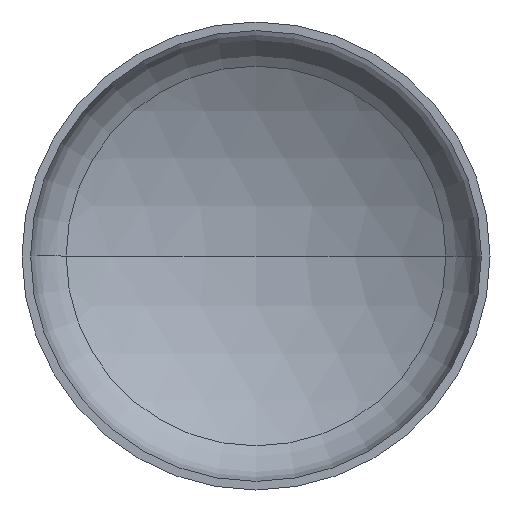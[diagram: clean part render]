
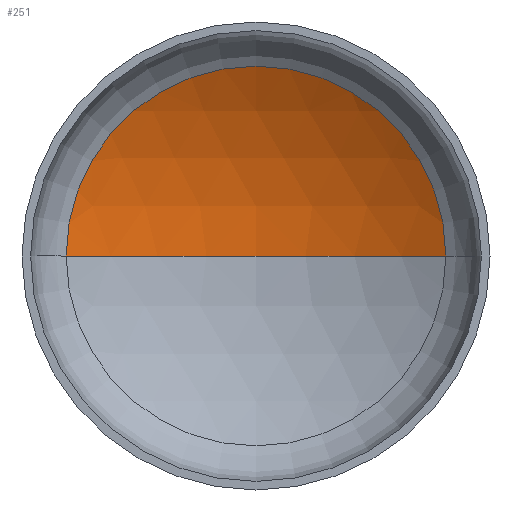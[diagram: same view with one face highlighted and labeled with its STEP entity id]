
A CAD part, front view. The second image highlights one B-rep face of the part: STEP entity #251.
In plain terms, the highlighted spherical face has radius 5200 mm.
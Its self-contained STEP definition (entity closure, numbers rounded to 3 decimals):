
#11 = ORIENTED_EDGE ( 'NONE', *, *, #183, .F. ) ;
#21 = CARTESIAN_POINT ( 'NONE',  ( 0., -3544.82, 0. ) ) ;
#27 = VERTEX_POINT ( 'NONE', #272 ) ;
#31 = DIRECTION ( 'NONE',  ( 0., 0., -1. ) ) ;
#41 = VERTEX_POINT ( 'NONE', #340 ) ;
#67 = VERTEX_POINT ( 'NONE', #262 ) ;
#81 = AXIS2_PLACEMENT_3D ( 'NONE', #21, #31, #385 ) ;
#88 = EDGE_LOOP ( 'NONE', ( #11, #98, #102 ) ) ;
#98 = ORIENTED_EDGE ( 'NONE', *, *, #180, .T. ) ;
#102 = ORIENTED_EDGE ( 'NONE', *, *, #179, .T. ) ;
#115 = FACE_OUTER_BOUND ( 'NONE', #88, .T. ) ;
#120 = CARTESIAN_POINT ( 'NONE',  ( 0., -3544.82, 0. ) ) ;
#130 = AXIS2_PLACEMENT_3D ( 'NONE', #120, #226, #247 ) ;
#134 = AXIS2_PLACEMENT_3D ( 'NONE', #194, #200, #175 ) ;
#137 = AXIS2_PLACEMENT_3D ( 'NONE', #290, #217, #216 ) ;
#146 = CIRCLE ( 'NONE', #130, 5200. ) ;
#175 = DIRECTION ( 'NONE',  ( -1., 0., 0. ) ) ;
#179 = EDGE_CURVE ( 'NONE', #67, #27, #238, .T. ) ;
#180 = EDGE_CURVE ( 'NONE', #41, #67, #353, .T. ) ;
#183 = EDGE_CURVE ( 'NONE', #41, #27, #146, .T. ) ;
#194 = CARTESIAN_POINT ( 'NONE',  ( 0., -3544.82, 0. ) ) ;
#200 = DIRECTION ( 'NONE',  ( 0., 0., -1. ) ) ;
#216 = DIRECTION ( 'NONE',  ( 1., 0., 0. ) ) ;
#217 = DIRECTION ( 'NONE',  ( 0., -1., 0. ) ) ;
#226 = DIRECTION ( 'NONE',  ( 0., 0., 1. ) ) ;
#238 = CIRCLE ( 'NONE', #137, 2637.143 ) ;
#247 = DIRECTION ( 'NONE',  ( 1., 0., 0. ) ) ;
#251 = ADVANCED_FACE ( 'NONE', ( #115 ), #334, .F. ) ;
#262 = CARTESIAN_POINT ( 'NONE',  ( 2637.143, 936.862, 0. ) ) ;
#272 = CARTESIAN_POINT ( 'NONE',  ( -2637.143, 936.862, 0. ) ) ;
#290 = CARTESIAN_POINT ( 'NONE',  ( 0., 936.862, 0. ) ) ;
#334 = SPHERICAL_SURFACE ( 'NONE', #81, 5200. ) ;
#340 = CARTESIAN_POINT ( 'NONE',  ( 0., 1655.18, 0. ) ) ;
#353 = CIRCLE ( 'NONE', #134, 5200. ) ;
#385 = DIRECTION ( 'NONE',  ( -1., 0., 0. ) ) ;
